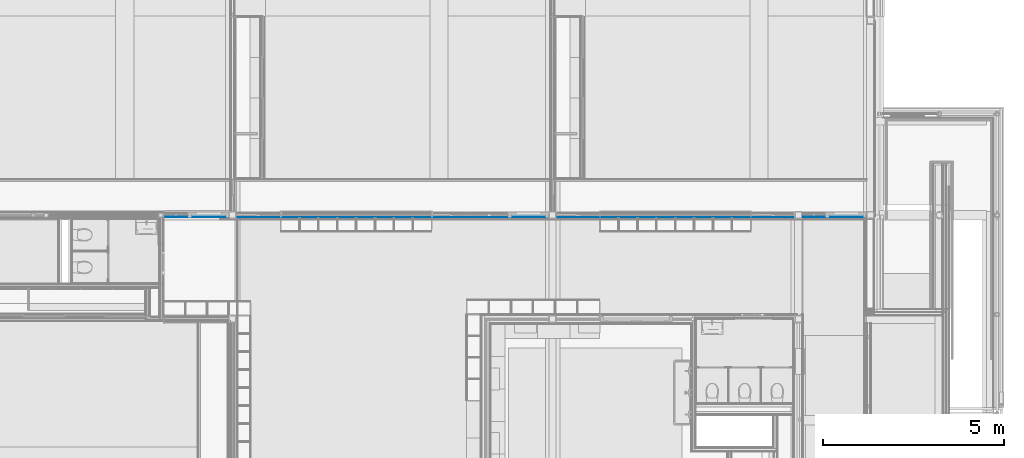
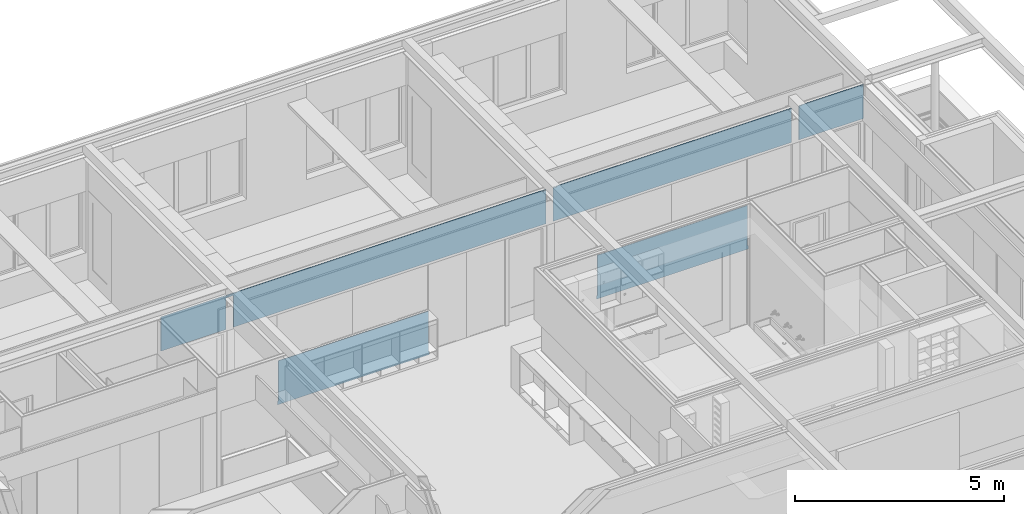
# One storey, part 50 of 137: 1 building element part, 14 openings, 1 element without a shape of its own.
"""IFC2X3 building model written with IfcOpenShell, lengths in millimetres."""

from ifc_helpers import new_model, entity, si_unit, converted_unit, derived_unit, money_unit, direction, frame, origin_with_axes, place, context, subcontext, project, spatial, faceted_brep, material, type_object, element, aggregate, save


model = new_model("IFC2X3")

# Units and contexts
model_context = context("Model", 3, precision=0.01, world=origin_with_axes(), true_north=direction((0.0, 1.0)))
body_context = subcontext(model_context, "Body", "Model", "MODEL_VIEW")
ifc_project = project(units=[si_unit("LENGTHUNIT", "METRE", prefix="MILLI"), si_unit("AREAUNIT", "SQUARE_METRE"), si_unit("VOLUMEUNIT", "CUBIC_METRE"), converted_unit("PLANEANGLEUNIT", "DEGREE", entity("IfcPlaneAngleMeasure", 0.0174532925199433), si_unit("PLANEANGLEUNIT", "RADIAN"), dimensions=[0, 0, 0, 0, 0, 0, 0]), money_unit("EUR"), converted_unit("TIMEUNIT", "Year", entity("IfcTimeMeasure", 31556926.0), si_unit("TIMEUNIT", "SECOND"), dimensions=[0, 0, 1, 0, 0, 0, 0]), si_unit("MASSUNIT", "GRAM", prefix="KILO"), si_unit("THERMODYNAMICTEMPERATUREUNIT", "DEGREE_CELSIUS"), si_unit("LUMINOUSINTENSITYUNIT", "LUMEN"), si_unit("ENERGYUNIT", "JOULE", prefix="MEGA"), derived_unit("THERMALCONDUCTANCEUNIT", [(si_unit("POWERUNIT", "WATT"), 1), (si_unit("LENGTHUNIT", "METRE"), -1), (si_unit("THERMODYNAMICTEMPERATUREUNIT", "KELVIN"), -1)]), derived_unit("SPECIFICHEATCAPACITYUNIT", [(si_unit("ENERGYUNIT", "JOULE"), 1), (si_unit("MASSUNIT", "GRAM", prefix="KILO"), -1), (si_unit("THERMODYNAMICTEMPERATUREUNIT", "KELVIN"), -1)]), derived_unit("MASSDENSITYUNIT", [(si_unit("MASSUNIT", "GRAM", prefix="KILO"), 1), (si_unit("VOLUMEUNIT", "CUBIC_METRE"), -1)])], contexts=[model_context])

# Site, building, storey
site_placement = place(None, origin_with_axes())
site = spatial("IfcSite", under=ifc_project, at=site_placement, Name="Site", CompositionType="ELEMENT")
building_placement = place(site_placement, origin_with_axes())
building = spatial("IfcBuilding", under=site, at=building_placement, Name="Naam gebouw", CompositionType="ELEMENT")
storey_placement = place(building_placement, frame((0.0, 0.0, 3960.0), z_axis=(0.0, 0.0, 1.0), x_axis=(1.0, 0.0, 0.0)))
storey = spatial("IfcBuildingStorey", under=building, at=storey_placement, Name="1e verdieping", CompositionType="ELEMENT", Elevation=3960.0)

# Proxy, openings, building element part
building_element_proxy_type = type_object("IfcBuildingElementProxyType", Name="22 Metal stud 125 gips 125", PredefinedType="NOTDEFINED")
proxy_placement = place(storey_placement, frame((6940.0, 22324.97621406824, -100.0000000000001), z_axis=(0.0, 0.0, 1.0), x_axis=(1.0, 0.0, 0.0)))
proxy = element("IfcBuildingElementProxy", 1, at=proxy_placement, inside=storey, type_object=building_element_proxy_type, Name="_Wand-x")
opening_1_placement = place(proxy_placement, frame((16859.99903999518, 0.0, 100.0000000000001), z_axis=(0.0, 0.0, 1.0), x_axis=(1.0, 0.0, 0.0)))
element("IfcOpeningElement", 2, at=opening_1_placement, cuts=proxy, Name="_B.01", context=body_context, shape_type="Brep", body=[
    faceted_brep([(599.9999999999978, -12.49999999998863, -100.0000000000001), (599.9999999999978, -12.49999999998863, 2600.0), (599.9999999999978, -63.49999999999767, 2600.0), (599.9999999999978, -63.49999999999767, -100.0000000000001), (599.9999999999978, 63.50000000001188, -100.0000000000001), (599.9999999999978, 63.50000000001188, 2600.0), (-599.9999999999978, -12.49999999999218, 2600.0), (-599.9999999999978, -63.50000000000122, 2600.0), (-599.9999999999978, 63.50000000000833, 2600.0), (-599.9999999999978, -63.50000000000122, -100.0000000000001), (-599.9999999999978, -12.49999999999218, -100.0000000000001), (-599.9999999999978, 63.50000000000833, -100.0000000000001)], [[[0, 1, 2, 3]], [[1, 0, 4, 5]], [[6, 7, 2, 1, 5, 8]], [[7, 9, 3, 2]], [[0, 3, 9, 10, 11, 4]], [[5, 4, 11, 8]], [[6, 10, 9, 7]], [[10, 6, 8, 11]]]),
])
opening_2_placement = place(proxy_placement, frame((11459.99903999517, 0.0, 100.0000000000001), z_axis=(0.0, 0.0, 1.0), x_axis=(1.0, 0.0, 0.0)))
element("IfcOpeningElement", 3, at=opening_2_placement, cuts=proxy, Name="_B.01", context=body_context, shape_type="Brep", body=[
    faceted_brep([(600.0000000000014, -12.49999999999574, -100.0000000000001), (600.0000000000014, -12.49999999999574, 2600.0), (600.0000000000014, -63.50000000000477, 2600.0), (600.0000000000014, -63.50000000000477, -100.0000000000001), (600.0000000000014, 63.50000000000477, -100.0000000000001), (600.0000000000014, 63.50000000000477, 2600.0), (-600.0000000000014, -12.49999999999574, 2600.0), (-600.0000000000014, -63.50000000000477, 2600.0), (-600.0000000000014, 63.50000000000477, 2600.0), (-600.0000000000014, -63.50000000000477, -100.0000000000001), (-600.0000000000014, -12.49999999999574, -100.0000000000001), (-600.0000000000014, 63.50000000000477, -100.0000000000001)], [[[0, 1, 2, 3]], [[1, 0, 4, 5]], [[6, 7, 2, 1, 5, 8]], [[7, 9, 3, 2]], [[0, 3, 9, 10, 11, 4]], [[5, 4, 11, 8]], [[6, 10, 9, 7]], [[10, 6, 8, 11]]]),
])
opening_3_placement = place(proxy_placement, frame((7954.999824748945, 0.0, 100.0000000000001), z_axis=(0.0, 0.0, 1.0), x_axis=(1.0, 0.0, 0.0)))
element("IfcOpeningElement", 4, at=opening_3_placement, cuts=proxy, Name="_B.06", context=body_context, shape_type="Brep", body=[
    faceted_brep([(524.9998247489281, -12.49999999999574, -100.0000000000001), (524.9998247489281, -12.49999999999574, 2600.0), (524.9998247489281, -63.50000000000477, 2600.0), (524.9998247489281, -63.50000000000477, -100.0000000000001), (524.9998247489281, 63.50000000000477, -100.0000000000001), (524.9998247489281, 63.50000000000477, 2600.0), (-524.9998247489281, -12.49999999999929, 2600.0), (-524.9998247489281, -63.50000000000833, 2600.0), (-524.9998247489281, 63.50000000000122, 2600.0), (-524.9998247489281, -63.50000000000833, -100.0000000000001), (-524.9998247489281, -12.49999999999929, -100.0000000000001), (-524.9998247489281, 63.50000000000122, -100.0000000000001)], [[[0, 1, 2, 3]], [[1, 0, 4, 5]], [[6, 7, 2, 1, 5, 8]], [[7, 9, 3, 2]], [[0, 3, 9, 10, 11, 4]], [[5, 4, 11, 8]], [[6, 10, 9, 7]], [[10, 6, 8, 11]]]),
])
opening_4_placement = place(proxy_placement, frame((15209.99903999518, 0.0, 1300.0), z_axis=(0.0, 0.0, 1.0), x_axis=(1.0, 0.0, 0.0)))
element("IfcOpeningElement", 5, at=opening_4_placement, cuts=proxy, Name="_C.01", context=body_context, shape_type="Brep", body=[
    faceted_brep([(1050.000000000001, -12.49999999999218, 0.0), (1050.000000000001, -12.49999999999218, 1400.0), (1050.000000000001, -63.50000000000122, 1400.0), (1050.000000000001, -63.50000000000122, 0.0), (1050.000000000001, 63.50000000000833, 0.0), (1050.000000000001, 63.50000000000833, 1400.0), (-1050.000000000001, -12.49999999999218, 1400.0), (-1050.000000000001, -63.50000000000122, 1400.0), (-1050.000000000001, 63.50000000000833, 1400.0), (-1050.000000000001, -63.50000000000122, 0.0), (-1050.000000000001, -12.49999999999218, 0.0), (-1050.000000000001, 63.50000000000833, 0.0)], [[[0, 1, 2, 3]], [[1, 0, 4, 5]], [[6, 7, 2, 1, 5, 8]], [[7, 9, 3, 2]], [[0, 3, 9, 10, 11, 4]], [[5, 4, 11, 8]], [[6, 10, 9, 7]], [[10, 6, 8, 11]]]),
])
opening_5_placement = place(proxy_placement, frame((2620.000000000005, 0.0, 100.0000000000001), z_axis=(0.0, 0.0, 1.0), x_axis=(1.0, 0.0, 0.0)))
element("IfcOpeningElement", 6, at=opening_5_placement, cuts=proxy, Name="_B.03", context=body_context, shape_type="Brep", body=[
    faceted_brep([(610.0000000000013, -12.49999999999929, -100.0000000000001), (610.0000000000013, -12.49999999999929, 2600.0), (610.0000000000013, -63.50000000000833, 2600.0), (610.0000000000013, -63.50000000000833, -100.0000000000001), (610.0000000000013, 63.50000000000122, -100.0000000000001), (610.0000000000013, 63.50000000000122, 2600.0), (-610.0000000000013, -12.49999999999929, 2600.0), (-610.0000000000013, -63.50000000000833, 2600.0), (-610.0000000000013, 63.50000000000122, 2600.0), (-610.0000000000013, -63.50000000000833, -100.0000000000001), (-610.0000000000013, -12.49999999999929, -100.0000000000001), (-610.0000000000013, 63.50000000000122, -100.0000000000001)], [[[0, 1, 2, 3]], [[1, 0, 4, 5]], [[6, 7, 2, 1, 5, 8]], [[7, 9, 3, 2]], [[0, 3, 9, 10, 11, 4]], [[5, 4, 11, 8]], [[6, 10, 9, 7]], [[10, 6, 8, 11]]]),
])
opening_6_placement = place(proxy_placement, frame((6380.000000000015, 0.0, 1300.0), z_axis=(0.0, 0.0, 1.0), x_axis=(1.0, 0.0, 0.0)))
element("IfcOpeningElement", 7, at=opening_6_placement, cuts=proxy, Name="_C.01", context=body_context, shape_type="Brep", body=[
    faceted_brep([(1050.000000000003, -12.49999999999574, 0.0), (1050.000000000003, -12.49999999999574, 1400.0), (1050.000000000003, -63.50000000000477, 1400.0), (1050.000000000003, -63.50000000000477, 0.0), (1050.000000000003, 63.50000000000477, 0.0), (1050.000000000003, 63.50000000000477, 1400.0), (-1050.000000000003, -12.49999999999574, 1400.0), (-1050.000000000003, -63.50000000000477, 1400.0), (-1050.000000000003, 63.50000000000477, 1400.0), (-1050.000000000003, -63.50000000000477, 0.0), (-1050.000000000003, -12.49999999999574, 0.0), (-1050.000000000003, 63.50000000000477, 0.0)], [[[0, 1, 2, 3]], [[1, 0, 4, 5]], [[6, 7, 2, 1, 5, 8]], [[7, 9, 3, 2]], [[0, 3, 9, 10, 11, 4]], [[5, 4, 11, 8]], [[6, 10, 9, 7]], [[10, 6, 8, 11]]]),
])
opening_7_placement = place(proxy_placement, frame((4279.999712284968, 0.0, 1300.0), z_axis=(0.0, 0.0, 1.0), x_axis=(1.0, 0.0, 0.0)))
element("IfcOpeningElement", 8, at=opening_7_placement, cuts=proxy, Name="_C.01", context=body_context, shape_type="Brep", body=[
    faceted_brep([(1049.999712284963, -12.49999999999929, 0.0), (1049.999712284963, -12.49999999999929, 1400.0), (1049.999712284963, -63.50000000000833, 1400.0), (1049.999712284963, -63.50000000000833, 0.0), (1049.999712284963, 63.50000000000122, 0.0), (1049.999712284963, 63.50000000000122, 1400.0), (-1049.999712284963, -12.49999999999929, 1400.0), (-1049.999712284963, -63.50000000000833, 1400.0), (-1049.999712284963, 63.50000000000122, 1400.0), (-1049.999712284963, -63.50000000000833, 0.0), (-1049.999712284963, -12.49999999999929, 0.0), (-1049.999712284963, 63.50000000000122, 0.0)], [[[0, 1, 2, 3]], [[1, 0, 4, 5]], [[6, 7, 2, 1, 5, 8]], [[7, 9, 3, 2]], [[0, 3, 9, 10, 11, 4]], [[5, 4, 11, 8]], [[6, 10, 9, 7]], [[10, 6, 8, 11]]]),
])
opening_8_placement = place(proxy_placement, frame((9004.999474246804, 0.0, 100.0000000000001), z_axis=(0.0, 0.0, 1.0), x_axis=(1.0, 0.0, 0.0)))
element("IfcOpeningElement", 9, at=opening_8_placement, cuts=proxy, Name="_B.06", context=body_context, shape_type="Brep", body=[
    faceted_brep([(524.9998247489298, -12.49999999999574, -100.0000000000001), (524.9998247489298, -12.49999999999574, 2600.0), (524.9998247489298, -63.50000000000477, 2600.0), (524.9998247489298, -63.50000000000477, -100.0000000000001), (524.9998247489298, 63.50000000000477, -100.0000000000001), (524.9998247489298, 63.50000000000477, 2600.0), (-524.9998247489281, -12.49999999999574, 2600.0), (-524.9998247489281, -63.50000000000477, 2600.0), (-524.9998247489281, 63.50000000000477, 2600.0), (-524.9998247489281, -63.50000000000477, -100.0000000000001), (-524.9998247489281, -12.49999999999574, -100.0000000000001), (-524.9998247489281, 63.50000000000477, -100.0000000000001)], [[[0, 1, 2, 3]], [[1, 0, 4, 5]], [[6, 7, 2, 1, 5, 8]], [[7, 9, 3, 2]], [[0, 3, 9, 10, 11, 4]], [[5, 4, 11, 8]], [[6, 10, 9, 7]], [[10, 6, 8, 11]]]),
])
opening_9_placement = place(proxy_placement, frame((17987.99950490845, 0.0, 100.0000000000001), z_axis=(0.0, 0.0, 1.0), x_axis=(1.0, 0.0, 0.0)))
element("IfcOpeningElement", 10, at=opening_9_placement, cuts=proxy, Name="_B.09", context=body_context, shape_type="Brep", body=[
    faceted_brep([(-328.0004950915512, 12.50000000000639, -100.0000000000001), (-328.0004950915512, 12.50000000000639, 2600.0), (-328.0004950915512, 63.50000000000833, 2600.0), (-328.0004950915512, 63.50000000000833, -100.0000000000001), (-328.0004950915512, -63.50000000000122, -100.0000000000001), (-328.0004950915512, -63.50000000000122, 2600.0), (328.0004950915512, 12.50000000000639, 2600.0), (328.0004950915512, 63.50000000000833, 2600.0), (328.0004950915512, -63.50000000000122, 2600.0), (328.0004950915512, 63.50000000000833, -100.0000000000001), (328.0004950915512, 12.50000000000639, -100.0000000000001), (328.0004950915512, -63.50000000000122, -100.0000000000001)], [[[0, 1, 2, 3]], [[1, 0, 4, 5]], [[6, 7, 2, 1, 5, 8]], [[7, 9, 3, 2]], [[0, 3, 9, 10, 11, 4]], [[5, 4, 11, 8]], [[6, 10, 9, 7]], [[10, 6, 8, 11]]]),
])
opening_10_placement = place(proxy_placement, frame((18881.0, 0.0, 100.0000000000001), z_axis=(0.0, 0.0, 1.0), x_axis=(1.0, 0.0, 0.0)))
element("IfcOpeningElement", 11, at=opening_10_placement, cuts=proxy, Name="_01.01", context=body_context, shape_type="Brep", body=[
    faceted_brep([(-565.0000000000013, -63.50000000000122, 2600.0), (-565.0000000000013, -63.50000000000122, -100.0000000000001), (565.0000000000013, -63.50000000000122, -100.0000000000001), (565.0000000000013, -63.50000000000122, 2600.0), (-565.0000000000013, 63.50000000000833, 2600.0), (-565.0000000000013, 63.50000000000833, -100.0000000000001), (565.0000000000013, 63.50000000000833, -100.0000000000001), (565.0000000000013, 63.50000000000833, 2600.0)], [[[0, 1, 2, 3]], [[4, 5, 1, 0]], [[5, 6, 2, 1]], [[6, 7, 3, 2]], [[7, 4, 0, 3]], [[6, 5, 4, 7]]]),
])
opening_11_placement = place(proxy_placement, frame((339.9999604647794, 0.0, 100.0000000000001), z_axis=(0.0, 0.0, 1.0), x_axis=(1.0, 0.0, 0.0)))
element("IfcOpeningElement", 12, at=opening_11_placement, cuts=proxy, Name="_B.07", context=body_context, shape_type="Brep", body=[
    faceted_brep([(-339.9999604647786, 12.49999999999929, -100.0000000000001), (-339.9999604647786, 12.49999999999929, 2600.0), (-339.9999604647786, 63.50000000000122, 2600.0), (-339.9999604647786, 63.50000000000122, -100.0000000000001), (-339.9999604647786, -63.50000000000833, -100.0000000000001), (-339.9999604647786, -63.50000000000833, 2600.0), (339.9999604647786, 12.49999999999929, 2600.0), (339.9999604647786, 63.50000000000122, 2600.0), (339.9999604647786, -63.50000000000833, 2600.0), (339.9999604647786, 63.50000000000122, -100.0000000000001), (339.9999604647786, 12.49999999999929, -100.0000000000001), (339.9999604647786, -63.50000000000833, -100.0000000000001)], [[[0, 1, 2, 3]], [[1, 0, 4, 5]], [[6, 7, 2, 1, 5, 8]], [[7, 9, 3, 2]], [[0, 3, 9, 10, 11, 4]], [[5, 4, 11, 8]], [[6, 10, 9, 7]], [[10, 6, 8, 11]]]),
])
opening_12_placement = place(proxy_placement, frame((10094.99929899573, 0.0, 100.0000000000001), z_axis=(0.0, 0.0, 1.0), x_axis=(1.0, 0.0, 0.0)))
element("IfcOpeningElement", 13, at=opening_12_placement, cuts=proxy, Name="_01.01", context=body_context, shape_type="Brep", body=[
    faceted_brep([(-565.0000000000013, -63.50000000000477, 2600.0), (-565.0000000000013, -63.50000000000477, -100.0000000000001), (565.0000000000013, -63.50000000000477, -100.0000000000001), (565.0000000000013, -63.50000000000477, 2600.0), (-565.0000000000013, 63.50000000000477, 2600.0), (-565.0000000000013, 63.50000000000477, -100.0000000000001), (565.0000000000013, 63.50000000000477, -100.0000000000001), (565.0000000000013, 63.50000000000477, 2600.0)], [[[0, 1, 2, 3]], [[4, 5, 1, 0]], [[5, 6, 2, 1]], [[6, 7, 3, 2]], [[7, 4, 0, 3]], [[6, 5, 4, 7]]]),
])
opening_13_placement = place(proxy_placement, frame((13109.99903999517, 0.0, 1300.0), z_axis=(0.0, 0.0, 1.0), x_axis=(1.0, 0.0, 0.0)))
element("IfcOpeningElement", 14, at=opening_13_placement, cuts=proxy, Name="_C.01", context=body_context, shape_type="Brep", body=[
    faceted_brep([(1050.000000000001, -12.49999999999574, 0.0), (1050.000000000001, -12.49999999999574, 1400.0), (1050.000000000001, -63.50000000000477, 1400.0), (1050.000000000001, -63.50000000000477, 0.0), (1050.000000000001, 63.50000000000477, 0.0), (1050.000000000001, 63.50000000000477, 1400.0), (-1050.000000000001, -12.49999999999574, 1400.0), (-1050.000000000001, -63.50000000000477, 1400.0), (-1050.000000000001, 63.50000000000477, 1400.0), (-1050.000000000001, -63.50000000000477, 0.0), (-1050.000000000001, -12.49999999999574, 0.0), (-1050.000000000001, 63.50000000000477, 0.0)], [[[0, 1, 2, 3]], [[1, 0, 4, 5]], [[6, 7, 2, 1, 5, 8]], [[7, 9, 3, 2]], [[0, 3, 9, 10, 11, 4]], [[5, 4, 11, 8]], [[6, 10, 9, 7]], [[10, 6, 8, 11]]]),
])
opening_14_placement = place(proxy_placement, frame((1244.999920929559, 0.0, 100.0000000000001), z_axis=(0.0, 0.0, 1.0), x_axis=(1.0, 0.0, 0.0)))
element("IfcOpeningElement", 15, at=opening_14_placement, cuts=proxy, Name="_01.01", context=body_context, shape_type="Brep", body=[
    faceted_brep([(-564.9999999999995, -63.50000000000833, 2600.0), (-564.9999999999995, -63.50000000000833, -100.0000000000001), (564.9999999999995, -63.50000000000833, -100.0000000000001), (564.9999999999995, -63.50000000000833, 2600.0), (-564.9999999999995, 63.50000000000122, 2600.0), (-564.9999999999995, 63.50000000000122, -100.0000000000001), (564.9999999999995, 63.50000000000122, -100.0000000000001), (564.9999999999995, 63.50000000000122, 2600.0)], [[[0, 1, 2, 3]], [[4, 5, 1, 0]], [[5, 6, 2, 1]], [[6, 7, 3, 2]], [[7, 4, 0, 3]], [[6, 5, 4, 7]]]),
])
ifc_material = material(Name="Gipsplaat")
building_element_part_placement = place(proxy_placement, origin_with_axes())
building_element_part = element("IfcBuildingElementPart", 16, at=building_element_part_placement, material=ifc_material, Name="Gipsplaat", context=body_context, shape_type="Brep", body=[
    faceted_brep([(16239.9990399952, -37.49999999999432, 1280.000000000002), (16239.9990399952, -37.49999999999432, 100.0000000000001), (16259.99903999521, -37.49999999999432, 100.0000000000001), (16259.99903999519, -37.49999999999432, 0.0), (12059.99903999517, -37.49999999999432, 0.0), (12059.99884937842, -37.49999999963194, 100.0000000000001), (12079.99884937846, -37.49999999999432, 100.0000000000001), (12079.99884938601, -37.49999999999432, 1280.000000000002), (16239.9990399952, -49.99999999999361, 1280.000000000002), (16239.9990399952, -49.99999999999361, 100.0000000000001), (16259.99903999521, -49.99999999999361, 100.0000000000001), (16259.99903999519, -49.99999999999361, 0.0), (12059.99903999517, -49.99999999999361, 0.0), (12059.99882555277, -49.99999999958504, 100.0000000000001), (12079.9988255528, -49.99999999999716, 100.0000000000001), (12079.99882556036, -49.99999999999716, 1280.000000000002)], [[[0, 1, 2, 3, 4, 5, 6, 7]], [[1, 0, 8, 9]], [[10, 2, 1, 9]], [[2, 10, 11, 3]], [[11, 12, 4, 3]], [[4, 12, 13, 5]], [[13, 14, 6, 5]], [[14, 15, 7, 6]], [[8, 0, 7, 15]], [[9, 8, 15, 14, 13, 12, 11, 10]]]),
    faceted_brep([(17459.99903999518, -49.99999999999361, 2700.0), (10859.99903999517, -49.99999999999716, 2700.0), (10859.99903999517, -37.49999999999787, 2700.0), (17459.99903999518, -37.49999999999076, 2700.0), (17459.99903999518, -49.99999999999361, 3685.000029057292), (17359.99903999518, -49.99999999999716, 3685.000029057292), (17359.99903999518, -49.99999999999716, 3695.000029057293), (17458.99903999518, -49.99999999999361, 3695.000029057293), (17458.99903999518, -49.99999999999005, 3700.0), (10860.99942456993, -49.99999999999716, 3700.0), (10860.99942456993, -49.99999999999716, 3695.000029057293), (10959.99942456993, -49.99999999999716, 3695.000029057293), (10959.99942456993, -49.99999999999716, 3675.000029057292), (10859.99942456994, -49.99999999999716, 3675.000029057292), (10859.99942456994, -37.49999999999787, 3675.000029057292), (10959.99942456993, -37.49999999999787, 3675.000029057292), (10959.99942456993, -37.49999999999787, 3695.000029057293), (10860.99942456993, -37.49999999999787, 3695.000029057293), (10860.99942456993, -37.49999999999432, 3700.0), (17458.99903999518, -37.49999999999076, 3700.0), (17458.99903999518, -37.49999999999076, 3695.000029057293), (17359.99903999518, -37.49999999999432, 3695.000029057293), (17359.99903999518, -37.49999999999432, 3685.000029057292), (17459.99903999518, -37.49999999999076, 3685.000029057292)], [[[0, 1, 2, 3]], [[1, 0, 4, 5, 6, 7, 8, 9, 10, 11, 12, 13]], [[1, 13, 14, 2]], [[3, 2, 14, 15, 16, 17, 18, 19, 20, 21, 22, 23]], [[23, 4, 0, 3]], [[5, 4, 23, 22]], [[6, 5, 22, 21]], [[7, 6, 21, 20]], [[8, 7, 20, 19]], [[18, 9, 8, 19]], [[17, 10, 9, 18]], [[11, 10, 17, 16]], [[12, 11, 16, 15]], [[15, 14, 13, 12]]]),
    faceted_brep([(3229.99980938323, -37.49999999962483, 100.0000000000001), (3249.999809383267, -37.50000000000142, 100.0000000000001), (3249.999809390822, -37.50000000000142, 1280.000000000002), (7410.000000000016, -37.50000000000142, 1280.000000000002), (7410.000000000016, -37.50000000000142, 100.0000000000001), (7430.000000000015, -37.49999999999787, 100.0000000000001), (7430.000000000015, -37.49999999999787, 0.0), (3230.000000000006, -37.50000000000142, 0.0), (3229.999785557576, -49.99999999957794, 100.0000000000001), (3249.999785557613, -50.00000000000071, 100.0000000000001), (3249.999785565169, -50.00000000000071, 1280.000000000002), (7410.000000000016, -50.00000000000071, 1280.000000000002), (7410.000000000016, -50.00000000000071, 100.0000000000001), (7430.000000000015, -49.99999999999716, 100.0000000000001), (7430.000000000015, -49.99999999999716, 0.0), (3230.000000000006, -50.00000000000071, 0.0)], [[[0, 1, 2, 3, 4, 5, 6, 7]], [[1, 0, 8, 9]], [[10, 2, 1, 9]], [[2, 10, 11, 3]], [[4, 3, 11, 12]], [[4, 12, 13, 5]], [[14, 6, 5, 13]], [[14, 15, 7, 6]], [[8, 0, 7, 15]], [[9, 8, 15, 14, 13, 12, 11, 10]]]),
    faceted_brep([(1810.000000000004, -50.00000000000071, 3630.0), (1809.999920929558, -50.00000000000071, 2700.0), (1809.999920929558, -37.49999999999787, 2700.0), (1810.000000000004, -37.49999999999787, 3630.0), (0.0, -50.00000000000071, 2700.0), (2010.000000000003, -50.00000000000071, 3630.0), (2010.000000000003, -50.00000000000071, 2700.0), (10659.99929899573, -49.99999999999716, 2700.0), (10659.99942456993, -49.99999999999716, 3675.000029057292), (10559.99942456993, -49.99999999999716, 3675.000029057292), (10559.99942456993, -49.99999999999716, 3695.000029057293), (10658.99942456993, -49.99999999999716, 3695.000029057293), (10658.99942456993, -49.99999999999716, 3700.0), (2011.006875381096, -50.00000000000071, 3700.0), (2011.006875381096, -50.00000000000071, 3695.000002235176), (2110.006875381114, -50.00000000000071, 3695.000002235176), (2110.006875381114, -50.00000000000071, 3683.000002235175), (1710.006875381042, -50.00000000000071, 3683.000002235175), (1710.006875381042, -50.00000000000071, 3695.000002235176), (1809.00687538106, -50.00000000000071, 3695.000002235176), (1809.006875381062, -50.00000000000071, 3700.0), (0.0, -50.00000000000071, 3700.0), (0.0, -37.50000000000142, 2700.0), (0.0, -37.50000000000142, 3700.0), (1809.006882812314, -37.50000000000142, 3700.0), (1809.006882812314, -37.50000000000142, 3695.000002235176), (1710.006882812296, -37.50000000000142, 3695.000002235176), (1710.006882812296, -37.50000000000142, 3683.000002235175), (2110.006882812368, -37.49999999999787, 3683.000002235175), (2110.006882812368, -37.49999999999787, 3695.000002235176), (2011.006882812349, -37.50000000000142, 3695.000002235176), (2011.006882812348, -37.50000000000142, 3700.0), (10658.99942456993, -37.49999999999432, 3700.0), (10658.99942456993, -37.49999999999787, 3695.000029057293), (10559.99942456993, -37.49999999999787, 3695.000029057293), (10559.99942456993, -37.49999999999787, 3675.000029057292), (10659.99942456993, -37.49999999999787, 3675.000029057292), (10659.99929899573, -37.49999999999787, 2700.0), (2010.000000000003, -37.49999999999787, 2700.0), (2010.000000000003, -37.49999999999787, 3630.0)], [[[0, 1, 2, 3]], [[4, 1, 0, 5, 6, 7, 8, 9, 10, 11, 12, 13, 14, 15, 16, 17, 18, 19, 20, 21]], [[22, 2, 1, 4]], [[3, 2, 22, 23, 24, 25, 26, 27, 28, 29, 30, 31, 32, 33, 34, 35, 36, 37, 38, 39]], [[39, 5, 0, 3]], [[6, 5, 39, 38]], [[37, 7, 6, 38]], [[7, 37, 36, 8]], [[9, 8, 36, 35]], [[10, 9, 35, 34]], [[11, 10, 34, 33]], [[12, 11, 33, 32]], [[12, 32, 31, 13]], [[30, 14, 13, 31]], [[15, 14, 30, 29]], [[16, 15, 29, 28]], [[17, 16, 28, 27]], [[18, 17, 27, 26]], [[19, 18, 26, 25]], [[20, 19, 25, 24]], [[23, 21, 20, 24]], [[4, 21, 23, 22]]]),
    faceted_brep([(2005.006882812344, -37.50000000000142, 3700.0), (1815.006882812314, -37.50000000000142, 3700.0), (1815.00687538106, -50.00000000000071, 3700.0), (2005.006875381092, -50.00000000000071, 3700.0), (2005.006882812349, -37.50000000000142, 3695.000002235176), (1815.006882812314, -37.50000000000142, 3695.000002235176), (1815.006875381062, -50.00000000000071, 3695.000002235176), (2005.006875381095, -50.00000000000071, 3695.000002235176)], [[[0, 1, 2, 3]], [[4, 5, 1, 0]], [[6, 2, 1, 5]], [[6, 7, 3, 2]], [[7, 4, 0, 3]], [[6, 5, 4, 7]]]),
    faceted_brep([(19446.0, -49.99999999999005, 2700.0), (19446.0, -37.49999999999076, 2700.0), (19446.0, -37.49999999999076, 3683.0), (19446.0, -49.99999999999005, 3683.0), (18316.0, -37.49999999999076, 2700.0), (18316.0, -49.99999999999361, 2700.0), (17659.9990098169, -49.99999999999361, 2700.0), (17659.9990098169, -37.49999999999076, 2700.0), (17659.99903999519, -37.49999999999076, 3685.000029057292), (17759.99903999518, -37.49999999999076, 3685.000029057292), (17759.99903999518, -37.49999999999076, 3695.000029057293), (17660.99903999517, -37.49999999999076, 3695.000029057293), (17660.99903663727, -37.49999999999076, 3700.0), (19446.0, -37.49999999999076, 3700.0), (19446.0, -37.49999999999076, 3695.000000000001), (19360.99999552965, -37.49999999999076, 3695.000000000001), (19360.99999552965, -37.49999999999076, 3683.0), (19360.99999552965, -49.99999999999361, 3683.0), (19360.99999552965, -49.99999999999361, 3695.000000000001), (19446.0, -49.99999999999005, 3695.000000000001), (19446.0, -49.99999999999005, 3700.0), (17660.99903663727, -49.99999999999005, 3700.0), (17660.99903999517, -49.99999999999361, 3695.000029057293), (17759.99903999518, -49.99999999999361, 3695.000029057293), (17759.99903999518, -49.99999999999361, 3685.000029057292), (17659.99903999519, -49.99999999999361, 3685.000029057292)], [[[0, 1, 2, 3]], [[4, 1, 0, 5, 6, 7]], [[1, 4, 7, 8, 9, 10, 11, 12, 13, 14, 15, 16, 2]], [[2, 16, 17, 3]], [[5, 0, 3, 17, 18, 19, 20, 21, 22, 23, 24, 25, 6]], [[6, 25, 8, 7]], [[24, 9, 8, 25]], [[9, 24, 23, 10]], [[10, 23, 22, 11]], [[12, 11, 22, 21]], [[21, 20, 13, 12]], [[14, 13, 20, 19]], [[14, 19, 18, 15]], [[15, 18, 17, 16]]]),
])
aggregate(proxy, [building_element_part])

save(model, "model.ifc")
